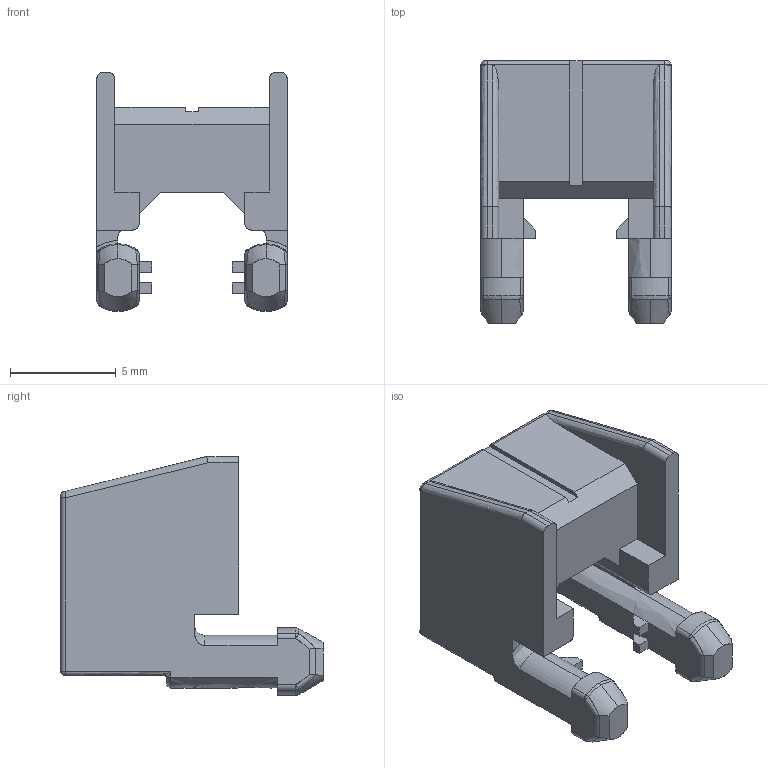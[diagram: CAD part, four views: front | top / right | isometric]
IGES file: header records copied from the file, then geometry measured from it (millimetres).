
Start section: SolidWorks IGES file using analytic representation for surfaces
Bounding box: 9 x 12.4 x 11.3 mm (x, y, z)
Surface area: 594.4 mm2 (no closed solid volume)
Topology: 0 solids, 0 shells, 188 faces, 1202 edges, 1194 vertices
Faces by surface type: bspline 109, revolution 79
